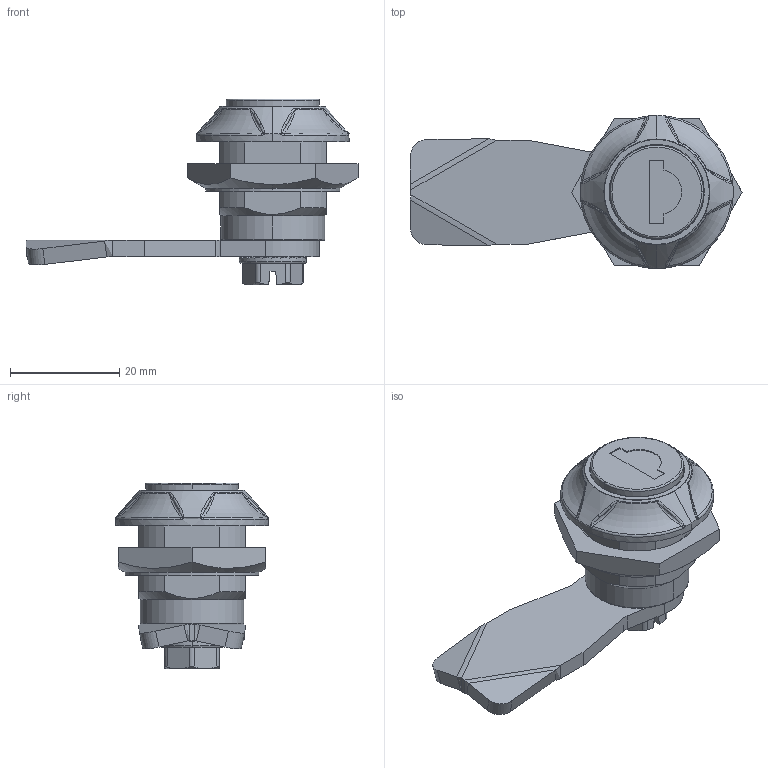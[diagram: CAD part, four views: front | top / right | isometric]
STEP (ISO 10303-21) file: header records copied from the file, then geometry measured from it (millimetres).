
FILE_DESCRIPTION (( 'STEP AP214' ), '1' );
FILE_NAME ('M22EW.STEP', '2016-09-08T09:10:15', ( '' ), ( '' ), 'SwSTEP 2.0', 'SolidWorks 2015', '' );
FILE_SCHEMA (( 'AUTOMOTIVE_DESIGN' ));
Length unit declared in the file: millimetre
Products named in the file (6): DIN 6921_M6x8; 1C.J-1XX.GH.L_#3, 1.00.18.45; 2.NKR_M22 - A1; Wk³adka 1333_1333 IP; 2.K.M22EW.001_90; M22EW
Assembly tree (5 placements, depth 2):
  M22EW
    2.K.M22EW.001_90
    Wk³adka 1333_1333 IP
    2.NKR_M22 - A1
    1C.J-1XX.GH.L_#3, 1.00.18.45
    DIN 6921_M6x8
Bounding box: 60.75 x 28 x 34 mm (x, y, z)
Volume: 12524.7 mm3; surface area: 9639 mm2
Topology: 5 solids, 5 shells, 422 faces, 1066 edges, 661 vertices
Faces by surface type: plane 192, cylinder 110, torus 47, bspline 44, cone 21, sphere 8
Entity records: 14224 total; most frequent: CARTESIAN_POINT 4410, ORIENTED_EDGE 2112, DIRECTION 1896, EDGE_CURVE 1056, AXIS2_PLACEMENT_3D 729, VERTEX_POINT 661, EDGE_LOOP 445, VECTOR 438
